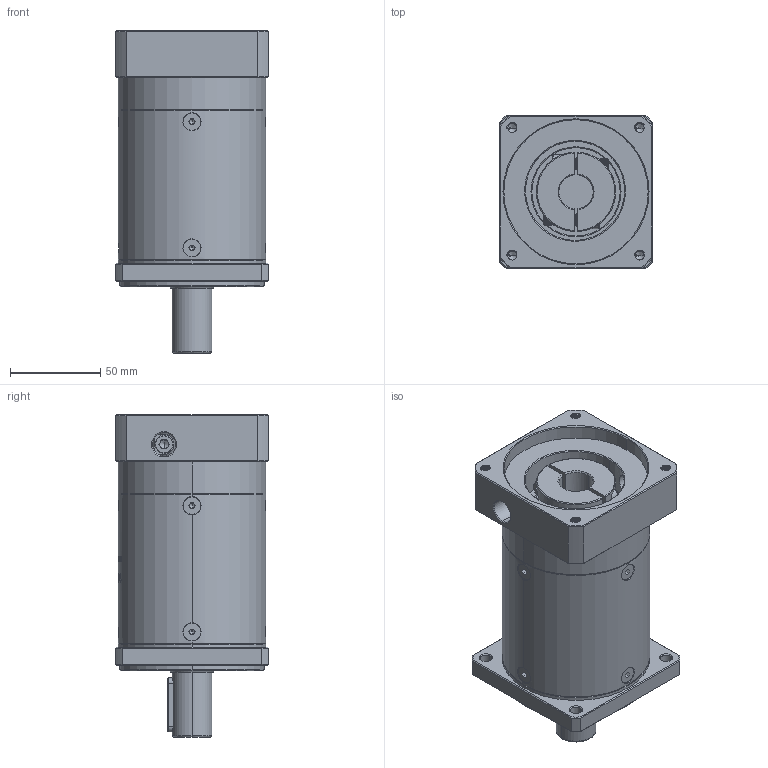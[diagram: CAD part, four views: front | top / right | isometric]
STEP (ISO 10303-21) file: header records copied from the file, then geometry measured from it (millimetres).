
FILE_DESCRIPTION (( 'STEP AP214' ), '1' );
FILE_NAME ('ZF80-D22-L3-19-80-100-M6.step', '2022-05-08T09:19:25', ( '' ), ( 'Microsoft' ), 'SwSTEP 2.0', 'SolidWorks 2016', '' );
FILE_SCHEMA (( 'AUTOMOTIVE_DESIGN' ));
Length unit declared in the file: millimetre
Products named in the file (1): ZF80-D22-L3-19-80-100-M6
Bounding box: 85 x 85 x 179 mm (x, y, z)
Volume: 743021 mm3; surface area: 99257 mm2
Topology: 13 solids, 13 shells, 1979 faces, 5111 edges, 3226 vertices
Faces by surface type: plane 896, cylinder 408, cone 338, bspline 320, torus 17
Entity records: 107687 total; most frequent: CARTESIAN_POINT 41321, ORIENTED_EDGE 10162, DIRECTION 8007, EDGE_CURVE 5081, VERTEX_POINT 3226, LINE 2761, VECTOR 2761, AXIS2_PLACEMENT_3D 2623
